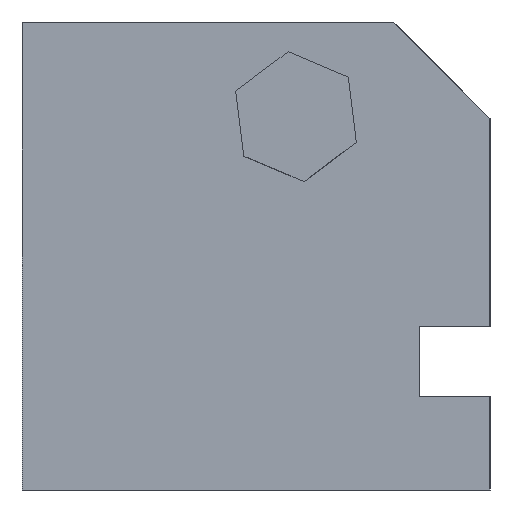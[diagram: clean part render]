
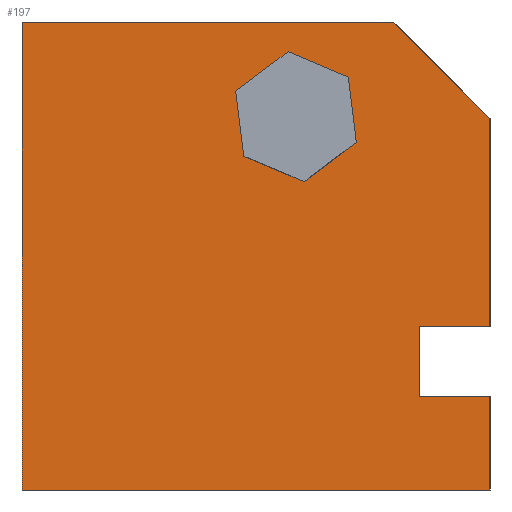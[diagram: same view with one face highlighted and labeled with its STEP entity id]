
A CAD part, left-side view. The second image highlights one B-rep face of the part: STEP entity #197.
In plain terms, the highlighted planar face has unit normal (-1, 0, 0).
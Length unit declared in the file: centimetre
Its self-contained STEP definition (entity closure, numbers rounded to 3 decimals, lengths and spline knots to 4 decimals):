
#6 = DIRECTION ( 'NONE',  ( 0., 0., -1. ) ) ;
#22 = CARTESIAN_POINT ( 'NONE',  ( 0., 543.2764, 852.2564 ) ) ;
#41 = FACE_BOUND ( 'NONE', #1127, .T. ) ;
#69 = EDGE_CURVE ( 'NONE', #231, #1285, #632, .T. ) ;
#74 = CARTESIAN_POINT ( 'NONE',  ( 0., 0., 1000. ) ) ;
#84 = ORIENTED_EDGE ( 'NONE', *, *, #619, .F. ) ;
#87 = VERTEX_POINT ( 'NONE', #214 ) ;
#94 = CARTESIAN_POINT ( 'NONE',  ( 0., 0., 1000. ) ) ;
#122 = CARTESIAN_POINT ( 'NONE',  ( 0., 397.3019, 658.7012 ) ) ;
#147 = CARTESIAN_POINT ( 'NONE',  ( 0., 150.7553, 200.5289 ) ) ;
#170 = LINE ( 'NONE', #693, #825 ) ;
#175 = CARTESIAN_POINT ( 'NONE',  ( 0., 526.1637, 713.3396 ) ) ;
#183 = VECTOR ( 'NONE', #1019, 100. ) ;
#186 = DIRECTION ( 'NONE',  ( 0., 0.122, 0.992 ) ) ;
#190 = ORIENTED_EDGE ( 'NONE', *, *, #802, .F. ) ;
#195 = VERTEX_POINT ( 'NONE', #233 ) ;
#197 = ADVANCED_FACE ( 'NONE', ( #41, #244 ), #1031, .F. ) ;
#204 = VECTOR ( 'NONE', #815, 100. ) ;
#208 = CARTESIAN_POINT ( 'NONE',  ( 0., 0., 794.605 ) ) ;
#214 = CARTESIAN_POINT ( 'NONE',  ( 0., 1000., 1000. ) ) ;
#224 = CARTESIAN_POINT ( 'NONE',  ( 0., 431.5273, 936.5348 ) ) ;
#231 = VERTEX_POINT ( 'NONE', #941 ) ;
#233 = CARTESIAN_POINT ( 'NONE',  ( 0., 302.6654, 881.8965 ) ) ;
#237 = ORIENTED_EDGE ( 'NONE', *, *, #1185, .F. ) ;
#244 = FACE_OUTER_BOUND ( 'NONE', #905, .T. ) ;
#298 = ORIENTED_EDGE ( 'NONE', *, *, #817, .T. ) ;
#300 = VERTEX_POINT ( 'NONE', #460 ) ;
#326 = DIRECTION ( 'NONE',  ( 0., 1., 0. ) ) ;
#328 = LINE ( 'NONE', #1114, #183 ) ;
#330 = CARTESIAN_POINT ( 'NONE',  ( 0., 0., 348.7849 ) ) ;
#361 = LINE ( 'NONE', #147, #470 ) ;
#373 = EDGE_CURVE ( 'NONE', #981, #1285, #1063, .T. ) ;
#377 = LINE ( 'NONE', #400, #786 ) ;
#379 = VERTEX_POINT ( 'NONE', #870 ) ;
#388 = VECTOR ( 'NONE', #6, 100. ) ;
#400 = CARTESIAN_POINT ( 'NONE',  ( 0., 1000., 1000. ) ) ;
#407 = CARTESIAN_POINT ( 'NONE',  ( 0., 526.1637, 713.3396 ) ) ;
#420 = LINE ( 'NONE', #605, #1100 ) ;
#433 = DIRECTION ( 'NONE',  ( 1., 0., 0. ) ) ;
#450 = VERTEX_POINT ( 'NONE', #208 ) ;
#460 = CARTESIAN_POINT ( 'NONE',  ( 0., 150.7553, 200.5289 ) ) ;
#470 = VECTOR ( 'NONE', #1237, 100. ) ;
#485 = EDGE_CURVE ( 'NONE', #450, #535, #690, .T. ) ;
#488 = LINE ( 'NONE', #885, #598 ) ;
#494 = CARTESIAN_POINT ( 'NONE',  ( 0., 0., 348.7849 ) ) ;
#498 = VECTOR ( 'NONE', #776, 100. ) ;
#522 = EDGE_CURVE ( 'NONE', #684, #195, #1108, .T. ) ;
#531 = ORIENTED_EDGE ( 'NONE', *, *, #373, .F. ) ;
#535 = VERTEX_POINT ( 'NONE', #494 ) ;
#581 = VERTEX_POINT ( 'NONE', #1015 ) ;
#583 = ORIENTED_EDGE ( 'NONE', *, *, #1202, .F. ) ;
#598 = VECTOR ( 'NONE', #1275, 100. ) ;
#604 = CARTESIAN_POINT ( 'NONE',  ( 0., 1000., 0. ) ) ;
#605 = CARTESIAN_POINT ( 'NONE',  ( 0., 205.395, 1000. ) ) ;
#619 = EDGE_CURVE ( 'NONE', #535, #1086, #731, .T. ) ;
#620 = VERTEX_POINT ( 'NONE', #224 ) ;
#632 = LINE ( 'NONE', #604, #204 ) ;
#637 = CARTESIAN_POINT ( 'NONE',  ( 0., 1000., 1000. ) ) ;
#684 = VERTEX_POINT ( 'NONE', #717 ) ;
#685 = DIRECTION ( 'NONE',  ( 0., 0., -1. ) ) ;
#690 = LINE ( 'NONE', #94, #388 ) ;
#693 = CARTESIAN_POINT ( 'NONE',  ( 0., 0., 200.5289 ) ) ;
#707 = ORIENTED_EDGE ( 'NONE', *, *, #1253, .F. ) ;
#709 = VECTOR ( 'NONE', #326, 100. ) ;
#711 = DIRECTION ( 'NONE',  ( 0., 0.707, 0.707 ) ) ;
#717 = CARTESIAN_POINT ( 'NONE',  ( 0., 285.5528, 742.9796 ) ) ;
#719 = DIRECTION ( 'NONE',  ( 0., -0.798, 0.602 ) ) ;
#731 = LINE ( 'NONE', #330, #709 ) ;
#762 = EDGE_CURVE ( 'NONE', #1086, #300, #361, .T. ) ;
#772 = CARTESIAN_POINT ( 'NONE',  ( 0., 205.395, 1000. ) ) ;
#776 = DIRECTION ( 'NONE',  ( 0., -1., 0. ) ) ;
#786 = VECTOR ( 'NONE', #685, 100. ) ;
#802 = EDGE_CURVE ( 'NONE', #379, #684, #803, .T. ) ;
#803 = LINE ( 'NONE', #122, #890 ) ;
#815 = DIRECTION ( 'NONE',  ( 0., -1., 0. ) ) ;
#817 = EDGE_CURVE ( 'NONE', #450, #1132, #420, .T. ) ;
#825 = VECTOR ( 'NONE', #879, 100. ) ;
#839 = ORIENTED_EDGE ( 'NONE', *, *, #762, .F. ) ;
#844 = VECTOR ( 'NONE', #1091, 100. ) ;
#851 = DIRECTION ( 'NONE',  ( 0., 0., -1. ) ) ;
#852 = CARTESIAN_POINT ( 'NONE',  ( 0., 0., 200.5289 ) ) ;
#862 = ORIENTED_EDGE ( 'NONE', *, *, #1111, .F. ) ;
#870 = CARTESIAN_POINT ( 'NONE',  ( 0., 397.3019, 658.7012 ) ) ;
#879 = DIRECTION ( 'NONE',  ( 0., -1., 0. ) ) ;
#881 = ORIENTED_EDGE ( 'NONE', *, *, #921, .F. ) ;
#885 = CARTESIAN_POINT ( 'NONE',  ( 0., 302.6654, 881.8965 ) ) ;
#890 = VECTOR ( 'NONE', #719, 100. ) ;
#903 = LINE ( 'NONE', #22, #1119 ) ;
#905 = EDGE_LOOP ( 'NONE', ( #531, #237, #839, #84, #1074, #298, #862, #1191, #1278 ) ) ;
#921 = EDGE_CURVE ( 'NONE', #620, #581, #328, .T. ) ;
#941 = CARTESIAN_POINT ( 'NONE',  ( 0., 1000., 0. ) ) ;
#963 = DIRECTION ( 'NONE',  ( 0., 0., -1. ) ) ;
#972 = VECTOR ( 'NONE', #186, 100. ) ;
#981 = VERTEX_POINT ( 'NONE', #852 ) ;
#1011 = DIRECTION ( 'NONE',  ( 0., -0.122, -0.992 ) ) ;
#1015 = CARTESIAN_POINT ( 'NONE',  ( 0., 543.2764, 852.2564 ) ) ;
#1019 = DIRECTION ( 'NONE',  ( 0., 0.798, -0.602 ) ) ;
#1031 = PLANE ( 'NONE',  #1139 ) ;
#1035 = ORIENTED_EDGE ( 'NONE', *, *, #1085, .F. ) ;
#1063 = LINE ( 'NONE', #74, #1165 ) ;
#1074 = ORIENTED_EDGE ( 'NONE', *, *, #485, .F. ) ;
#1085 = EDGE_CURVE ( 'NONE', #1269, #379, #1180, .T. ) ;
#1086 = VERTEX_POINT ( 'NONE', #1263 ) ;
#1091 = DIRECTION ( 'NONE',  ( 0., -0.921, -0.39 ) ) ;
#1100 = VECTOR ( 'NONE', #711, 100. ) ;
#1105 = CARTESIAN_POINT ( 'NONE',  ( 0., 0., 0. ) ) ;
#1108 = LINE ( 'NONE', #1186, #972 ) ;
#1111 = EDGE_CURVE ( 'NONE', #87, #1132, #1169, .T. ) ;
#1114 = CARTESIAN_POINT ( 'NONE',  ( 0., 431.5273, 936.5348 ) ) ;
#1119 = VECTOR ( 'NONE', #1011, 100. ) ;
#1121 = EDGE_CURVE ( 'NONE', #87, #231, #377, .T. ) ;
#1127 = EDGE_LOOP ( 'NONE', ( #881, #583, #1258, #190, #1035, #707 ) ) ;
#1132 = VERTEX_POINT ( 'NONE', #772 ) ;
#1139 = AXIS2_PLACEMENT_3D ( 'NONE', #637, #433, #851 ) ;
#1165 = VECTOR ( 'NONE', #963, 100. ) ;
#1169 = LINE ( 'NONE', #1282, #498 ) ;
#1180 = LINE ( 'NONE', #175, #844 ) ;
#1185 = EDGE_CURVE ( 'NONE', #300, #981, #170, .T. ) ;
#1186 = CARTESIAN_POINT ( 'NONE',  ( 0., 285.5528, 742.9796 ) ) ;
#1191 = ORIENTED_EDGE ( 'NONE', *, *, #1121, .T. ) ;
#1202 = EDGE_CURVE ( 'NONE', #195, #620, #488, .T. ) ;
#1237 = DIRECTION ( 'NONE',  ( 0., 0., -1. ) ) ;
#1253 = EDGE_CURVE ( 'NONE', #581, #1269, #903, .T. ) ;
#1258 = ORIENTED_EDGE ( 'NONE', *, *, #522, .F. ) ;
#1263 = CARTESIAN_POINT ( 'NONE',  ( 0., 150.7553, 348.7849 ) ) ;
#1269 = VERTEX_POINT ( 'NONE', #407 ) ;
#1275 = DIRECTION ( 'NONE',  ( 0., 0.921, 0.39 ) ) ;
#1278 = ORIENTED_EDGE ( 'NONE', *, *, #69, .T. ) ;
#1282 = CARTESIAN_POINT ( 'NONE',  ( 0., 1000., 1000. ) ) ;
#1285 = VERTEX_POINT ( 'NONE', #1105 ) ;
